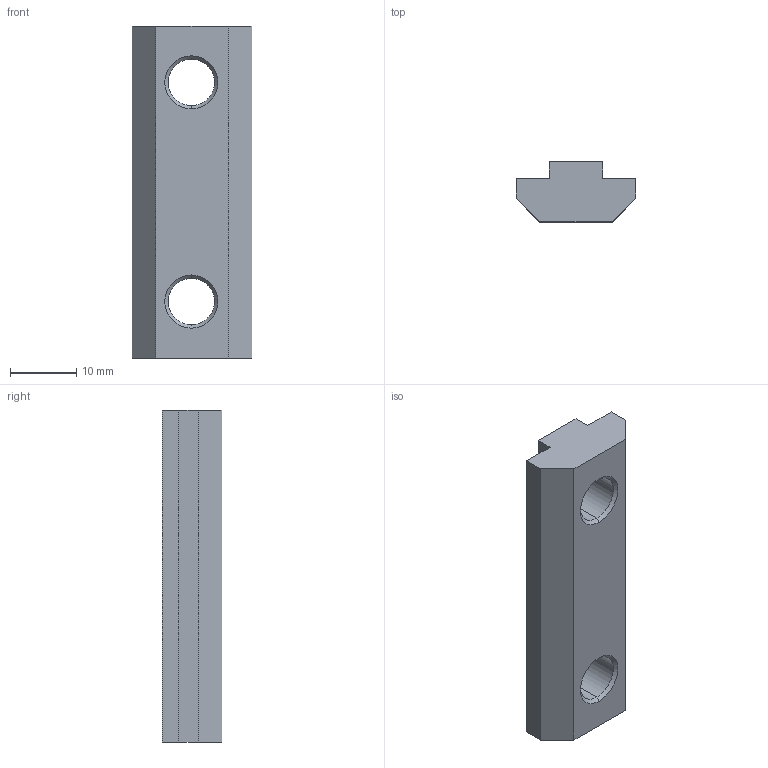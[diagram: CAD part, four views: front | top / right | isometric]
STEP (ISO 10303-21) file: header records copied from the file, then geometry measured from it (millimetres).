
FILE_DESCRIPTION (( 'STEP AP203' ), '1' );
FILE_NAME ('20XX.STEP', '2017-02-14T09:51:23', ( 'RosInstal-MKM' ), ( '' ), 'SwSTEP 2.0', 'SolidWorks 2014', '' );
FILE_SCHEMA (( 'CONFIG_CONTROL_DESIGN' ));
Length unit declared in the file: millimetre
Products named in the file (1): 20XX
Bounding box: 18 x 9.04 x 50 mm (x, y, z)
Volume: 5555.8 mm3; surface area: 2978 mm2
Topology: 1 solids, 1 shells, 20 faces, 50 edges, 32 vertices
Faces by surface type: plane 12, cone 4, cylinder 4
Entity records: 679 total; most frequent: DIRECTION 104, CARTESIAN_POINT 103, ORIENTED_EDGE 100, EDGE_CURVE 50, LINE 38, VECTOR 38, AXIS2_PLACEMENT_3D 33, VERTEX_POINT 32
